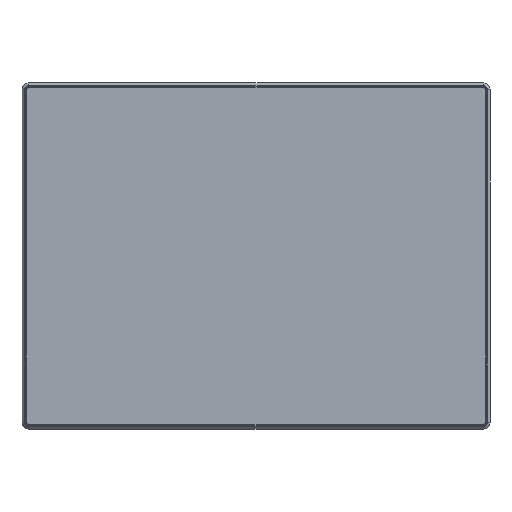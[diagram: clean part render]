
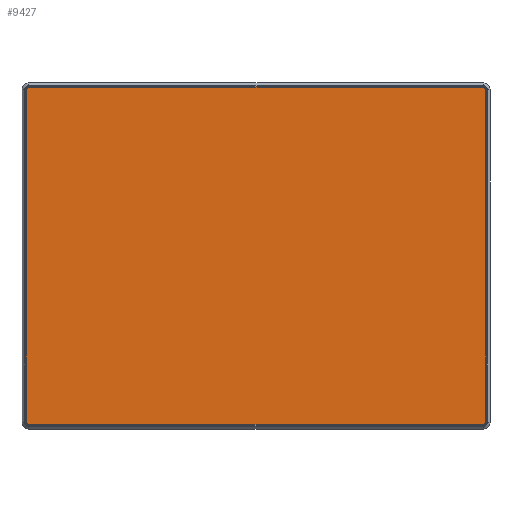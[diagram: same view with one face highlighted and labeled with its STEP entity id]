
A CAD part, top view. The second image highlights one B-rep face of the part: STEP entity #9427.
In plain terms, the highlighted planar face has unit normal (0, 0, 1).
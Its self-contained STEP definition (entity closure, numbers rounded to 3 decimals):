
#3498=DIRECTION('',(0.,1.,0.));
#3499=VECTOR('',#3498,190.5);
#3500=CARTESIAN_POINT('',(-131.7,-95.25,
7.65));
#3501=LINE('',#3500,#3499);
#3502=CARTESIAN_POINT('',(-130.25,95.25,7.65));
#3503=DIRECTION('',(0.,0.,-1.));
#3504=DIRECTION('',(-1.,0.,0.));
#3505=AXIS2_PLACEMENT_3D('',#3502,#3503,#3504);
#3507=DIRECTION('',(1.,0.,0.));
#3508=VECTOR('',#3507,260.5);
#3509=CARTESIAN_POINT('',(-130.25,96.7,7.65));
#3510=LINE('',#3509,#3508);
#3511=CARTESIAN_POINT('',(130.25,95.25,7.65));
#3512=DIRECTION('',(0.,0.,-1.));
#3513=DIRECTION('',(0.,1.,0.));
#3514=AXIS2_PLACEMENT_3D('',#3511,#3512,#3513);
#3516=DIRECTION('',(0.,-1.,0.));
#3517=VECTOR('',#3516,190.5);
#3518=CARTESIAN_POINT('',(131.7,95.25,7.65));
#3519=LINE('',#3518,#3517);
#3520=CARTESIAN_POINT('',(130.25,-95.25,7.65));
#3521=DIRECTION('',(0.,0.,-1.));
#3522=DIRECTION('',(1.,0.,0.));
#3523=AXIS2_PLACEMENT_3D('',#3520,#3521,#3522);
#3525=DIRECTION('',(-1.,0.,0.));
#3526=VECTOR('',#3525,260.5);
#3527=CARTESIAN_POINT('',(130.25,-96.7,7.65));
#3528=LINE('',#3527,#3526);
#3529=CARTESIAN_POINT('',(-130.25,-95.25,7.65));
#3530=DIRECTION('',(0.,0.,-1.));
#3531=DIRECTION('',(0.,-1.,0.));
#3532=AXIS2_PLACEMENT_3D('',#3529,#3530,#3531);
#4619=CARTESIAN_POINT('',(-131.7,95.25,7.65));
#4620=CARTESIAN_POINT('',(-130.25,96.7,7.65));
#4621=VERTEX_POINT('',#4619);
#4622=VERTEX_POINT('',#4620);
#4623=CARTESIAN_POINT('',(-131.7,-95.25,
7.65));
#4624=VERTEX_POINT('',#4623);
#4625=CARTESIAN_POINT('',(130.25,96.7,7.65));
#4626=VERTEX_POINT('',#4625);
#4627=CARTESIAN_POINT('',(131.7,95.25,7.65));
#4628=VERTEX_POINT('',#4627);
#4629=CARTESIAN_POINT('',(131.7,-95.25,7.65));
#4630=VERTEX_POINT('',#4629);
#4631=CARTESIAN_POINT('',(130.25,-96.7,7.65));
#4632=VERTEX_POINT('',#4631);
#4633=CARTESIAN_POINT('',(-130.25,-96.7,
7.65));
#4634=VERTEX_POINT('',#4633);
#9405=CARTESIAN_POINT('',(0.,0.,7.65));
#9406=DIRECTION('',(0.,0.,1.));
#9407=DIRECTION('',(1.,0.,0.));
#9408=AXIS2_PLACEMENT_3D('',#9405,#9406,#9407);
#9409=PLANE('',#9408);
#9411=ORIENTED_EDGE('',*,*,#9410,.T.);
#9412=ORIENTED_EDGE('',*,*,#9395,.T.);
#9414=ORIENTED_EDGE('',*,*,#9413,.T.);
#9416=ORIENTED_EDGE('',*,*,#9415,.T.);
#9418=ORIENTED_EDGE('',*,*,#9417,.T.);
#9420=ORIENTED_EDGE('',*,*,#9419,.T.);
#9422=ORIENTED_EDGE('',*,*,#9421,.T.);
#9424=ORIENTED_EDGE('',*,*,#9423,.T.);
#9425=EDGE_LOOP('',(#9411,#9412,#9414,#9416,#9418,#9420,#9422,#9424));
#9426=FACE_OUTER_BOUND('',#9425,.F.);
#9427=ADVANCED_FACE('',(#9426),#9409,.T.);
#3506=CIRCLE('',#3505,1.45);
#3515=CIRCLE('',#3514,1.45);
#3524=CIRCLE('',#3523,1.45);
#3533=CIRCLE('',#3532,1.45);
#9395=EDGE_CURVE('',#4621,#4622,#3506,.T.);
#9410=EDGE_CURVE('',#4624,#4621,#3501,.T.);
#9413=EDGE_CURVE('',#4622,#4626,#3510,.T.);
#9415=EDGE_CURVE('',#4626,#4628,#3515,.T.);
#9417=EDGE_CURVE('',#4628,#4630,#3519,.T.);
#9419=EDGE_CURVE('',#4630,#4632,#3524,.T.);
#9421=EDGE_CURVE('',#4632,#4634,#3528,.T.);
#9423=EDGE_CURVE('',#4634,#4624,#3533,.T.);
